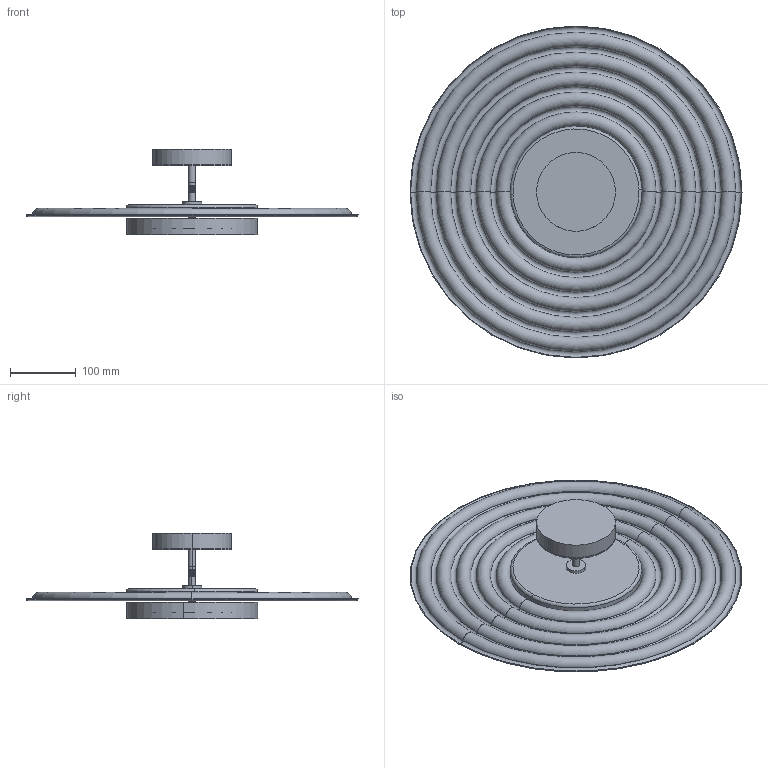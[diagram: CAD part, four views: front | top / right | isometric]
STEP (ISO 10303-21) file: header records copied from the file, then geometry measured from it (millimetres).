
FILE_DESCRIPTION (( 'STEP AP214' ), '1' );
FILE_NAME ('TICO_A1095_50.STEP', '2024-11-11T10:57:42', ( '' ), ( '' ), 'SwSTEP 2.0', 'SolidWorks 2018', '' );
FILE_SCHEMA (( 'AUTOMOTIVE_DESIGN' ));
Length unit declared in the file: millimetre
Products named in the file (6): marmol; 1012; floron; disco tico 50; arandela; TICO_A1095_50
Assembly tree (5 placements, depth 2):
  TICO_A1095_50
    floron
    marmol
    arandela
    1012
    disco tico 50
Bounding box: 505.27 x 505.27 x 130 mm (x, y, z)
Volume: 1508027.4 mm3; surface area: 747225 mm2
Topology: 7 solids, 7 shells, 217 faces, 544 edges, 345 vertices
Faces by surface type: cylinder 139, torus 44, plane 24, bspline 10
Entity records: 13706 total; most frequent: CARTESIAN_POINT 8680, ORIENTED_EDGE 1088, DIRECTION 863, EDGE_CURVE 544, AXIS2_PLACEMENT_3D 358, VERTEX_POINT 345, EDGE_LOOP 227, ADVANCED_FACE 217
